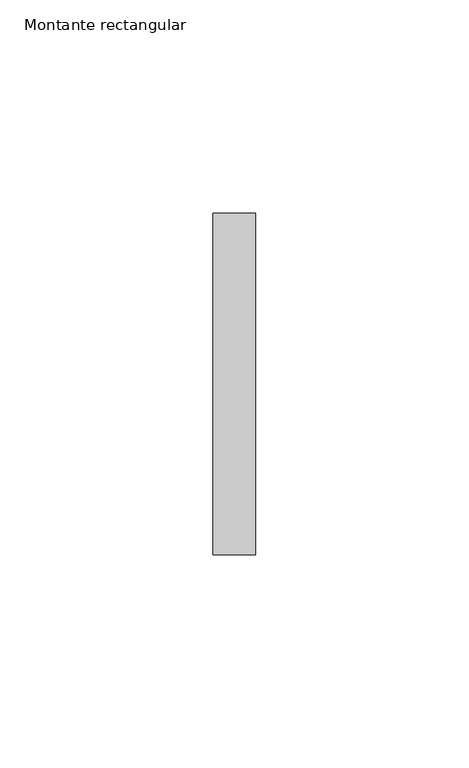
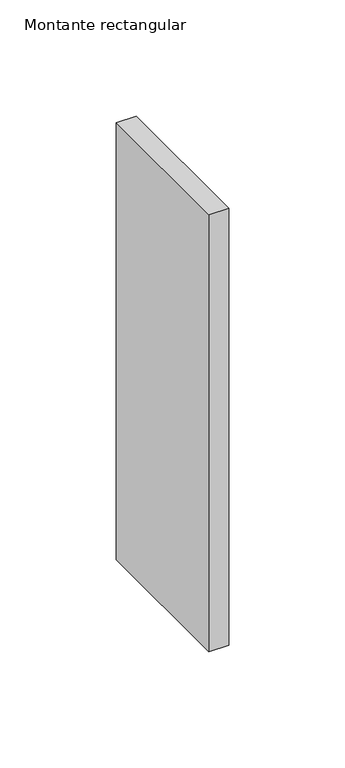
"""IFC4 building model written with IfcOpenShell, lengths in millimetres: member geometry, Montante rectangular : Junta de paves."""

from ifc_helpers import new_model, si_unit, frame, origin, place, context, project, spatial, polyline, outline, extrude, source, transform, mapped, element, save


def montante_rectangular_d329d11d(model_context):
    return source(origin(), model_context, "Body", "SweptSolid", [
        extrude(outline(polyline([(5.0, 40.0), (5.0, -40.0), (-5.0, -40.0), (-5.0, 40.0), (5.0, 40.0)])), frame((0.0, 0.0, -230.0), z_axis=(0.0, 0.0, 1.0), x_axis=(1.0, 0.0, 0.0)), (0.0, 0.0, 1.0), 230.0),
    ])


if __name__ == "__main__":
    model = new_model("IFC4")
    model_context = context("Model", 3, world=origin())
    ifc_project = project(units=[si_unit("LENGTHUNIT", "METRE", prefix="MILLI")], contexts=[model_context])
    site = spatial("IfcSite", under=ifc_project)
    building = spatial("IfcBuilding", under=site)
    placement = place(None, origin())
    montante_rectangular_shape = montante_rectangular_d329d11d(model_context)
    element("IfcMember", 1, ObjectType="Montante rectangular : Junta de paves", at=placement, inside=building, context=model_context, shape_type="MappedRepresentation", body=[
        mapped(montante_rectangular_shape, transform((0.0, 0.0, 0.0), x_axis=(1.0, 0.0, 0.0), y_axis=(0.0, 1.0, 0.0), z_axis=(0.0, 0.0, 1.0))),
    ])
    save(model, "model.ifc")
